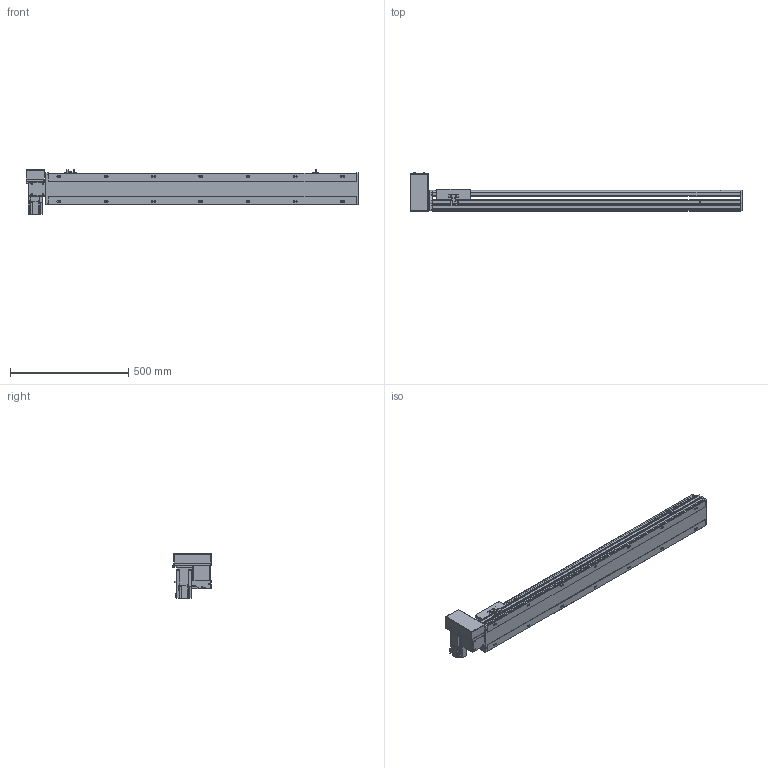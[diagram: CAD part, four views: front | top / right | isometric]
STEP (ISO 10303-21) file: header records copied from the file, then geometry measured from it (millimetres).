
FILE_DESCRIPTION(/* description */ ('STEP AP214'),/* implementation_level */ '2;1');
FILE_NAME(/* name */ 'PBS140S-P40-S1050-RU-T40-C1-N(0)',/* time_stamp */ '2022-06-09T02:54:47+02:00',/* author */ ('License CC BY-ND 4.0'),/* organization */ ('CADENAS'),/* preprocessor_version */ 'ST-DEVELOPER v18.102',/* originating_system */ 'PARTsolutions',/* authorisation */ ' ');
FILE_SCHEMA (('AUTOMOTIVE_DESIGN {1 0 10303 214 3 1 1}'));
Length unit declared in the file: millimetre
Products named in the file (7): PBS140S-P40-S1050-RU-T40-C1-N(0); PBS140S_sensor; PBS140S_plant; PBS140S_sliser; T40-p1; PBS140ST-RU_motors; PBS140S-S1050()_body
Assembly tree (8 placements, depth 2):
  PBS140S-P40-S1050-RU-T40-C1-N(0)
    PBS140S_sensor  x3
    PBS140S_plant
    PBS140S_sliser
    T40-p1
    PBS140ST-RU_motors
    PBS140S-S1050()_body
Bounding box: 1404 x 162.5 x 189.7 mm (x, y, z)
Volume: 7268613.4 mm3; surface area: 1255754.8 mm2
Topology: 8 solids, 8 shells, 1083 faces, 2871 edges, 1879 vertices
Faces by surface type: plane 696, cylinder 337, cone 40, sphere 8, torus 2
Full cylindrical faces by diameter (mm): 3.242 x4, 4 x2, 4.134 x4, 4.4 x8, 4.5 x2, 4.8 x4, 4.917 x22, 5.5 x7, 6 x2, 7 x16, 7.5 x8, 8 x12, 8.5 x4, 10.5 x14, 14 x1, 30 x2, 50 x2
Entity records: 31038 total; most frequent: CARTESIAN_POINT 5704, DIRECTION 5278, ORIENTED_EDGE 5002, EDGE_CURVE 2501, AXIS2_PLACEMENT_3D 1829, VERTEX_POINT 1729, LINE 1620, VECTOR 1620
